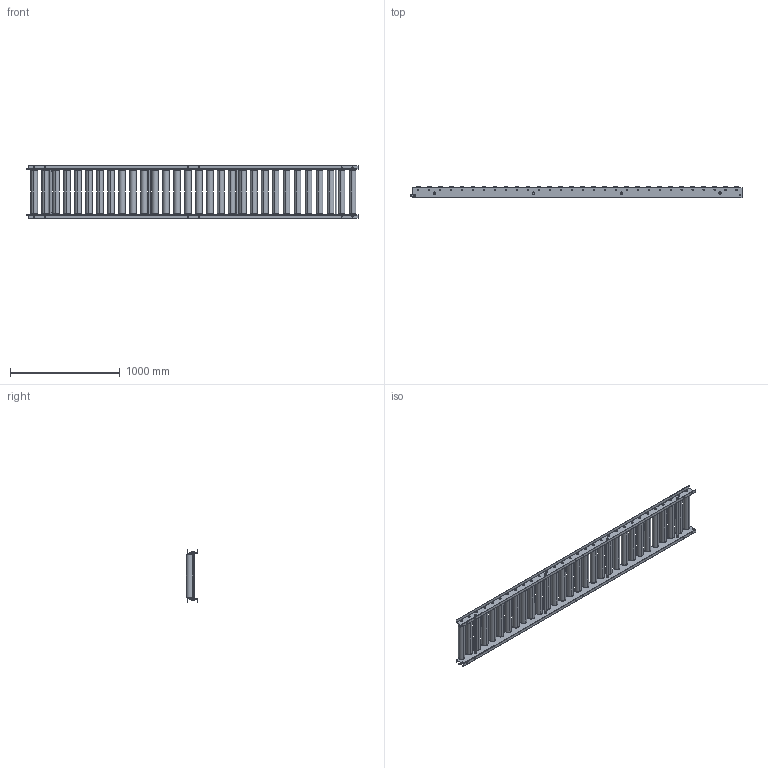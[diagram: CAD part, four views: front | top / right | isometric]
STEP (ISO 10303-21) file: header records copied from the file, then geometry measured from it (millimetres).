
FILE_DESCRIPTION (( 'STEP AP203' ), '1' );
FILE_NAME ('RS-6015J.step', '2024-02-26T06:39:58', ( '' ), ( '' ), 'SwSTEP 2.0', 'SolidWorks 2023', '' );
FILE_SCHEMA (( 'CONFIG_CONTROL_DESIGN' ));
Length unit declared in the file: millimetre
Products named in the file (1): RS-6015J
Bounding box: 3025 x 101.67 x 475 mm (x, y, z)
Volume: 36566589.6 mm3; surface area: 5326872.4 mm2
Topology: 84 solids, 84 shells, 1160 faces, 2572 edges, 1648 vertices
Faces by surface type: cylinder 562, plane 430, torus 120, cone 48
Entity records: 33311 total; most frequent: DIRECTION 6238, CARTESIAN_POINT 6053, ORIENTED_EDGE 5144, AXIS2_PLACEMENT_3D 2633, EDGE_CURVE 2572, VERTEX_POINT 1648, EDGE_LOOP 1472, CIRCLE 1472
